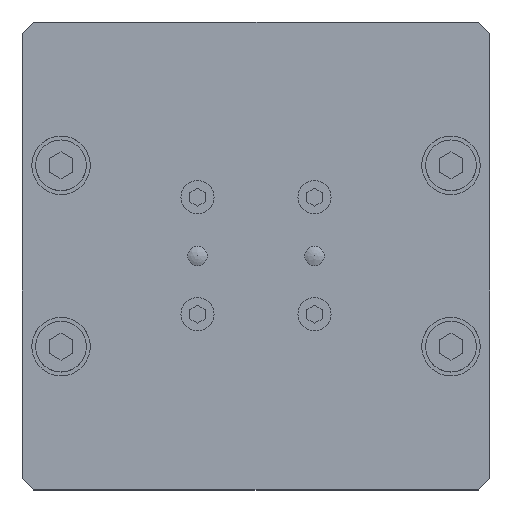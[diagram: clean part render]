
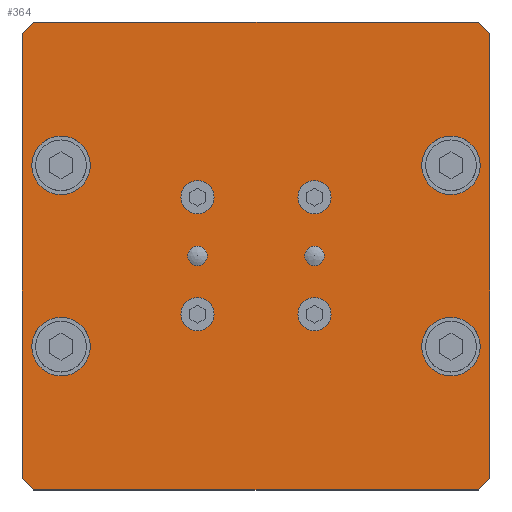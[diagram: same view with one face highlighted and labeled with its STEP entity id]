
A CAD part, top view. The second image highlights one B-rep face of the part: STEP entity #364.
In plain terms, the highlighted planar face has unit normal (0, 0, 1).
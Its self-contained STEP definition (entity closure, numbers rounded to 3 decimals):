
#364 = ADVANCED_FACE( '', ( #828, #829, #830, #831, #832, #833, #834, #835, #836, #837, #838 ), #839, .F. );
#828 = FACE_BOUND( '', #1407, .T. );
#829 = FACE_BOUND( '', #1408, .T. );
#830 = FACE_BOUND( '', #1409, .T. );
#831 = FACE_BOUND( '', #1410, .T. );
#832 = FACE_BOUND( '', #1411, .T. );
#833 = FACE_BOUND( '', #1412, .T. );
#834 = FACE_BOUND( '', #1413, .T. );
#835 = FACE_BOUND( '', #1414, .T. );
#836 = FACE_BOUND( '', #1415, .T. );
#837 = FACE_BOUND( '', #1416, .T. );
#838 = FACE_OUTER_BOUND( '', #1417, .T. );
#839 = PLANE( '', #1418 );
#1407 = EDGE_LOOP( '', ( #2308 ) );
#1408 = EDGE_LOOP( '', ( #2309 ) );
#1409 = EDGE_LOOP( '', ( #2310 ) );
#1410 = EDGE_LOOP( '', ( #2311 ) );
#1411 = EDGE_LOOP( '', ( #2312 ) );
#1412 = EDGE_LOOP( '', ( #2313 ) );
#1413 = EDGE_LOOP( '', ( #2314 ) );
#1414 = EDGE_LOOP( '', ( #2315 ) );
#1415 = EDGE_LOOP( '', ( #2316 ) );
#1416 = EDGE_LOOP( '', ( #2317 ) );
#1417 = EDGE_LOOP( '', ( #2318, #2319, #2320, #2321, #2322, #2323, #2324, #2325 ) );
#1418 = AXIS2_PLACEMENT_3D( '', #2326, #2327, #2328 );
#2308 = ORIENTED_EDGE( '', *, *, #2789, .F. );
#2309 = ORIENTED_EDGE( '', *, *, #2793, .T. );
#2310 = ORIENTED_EDGE( '', *, *, #2980, .F. );
#2311 = ORIENTED_EDGE( '', *, *, #2838, .F. );
#2312 = ORIENTED_EDGE( '', *, *, #3029, .F. );
#2313 = ORIENTED_EDGE( '', *, *, #3030, .F. );
#2314 = ORIENTED_EDGE( '', *, *, #2985, .T. );
#2315 = ORIENTED_EDGE( '', *, *, #2834, .F. );
#2316 = ORIENTED_EDGE( '', *, *, #3009, .F. );
#2317 = ORIENTED_EDGE( '', *, *, #3002, .T. );
#2318 = ORIENTED_EDGE( '', *, *, #2965, .F. );
#2319 = ORIENTED_EDGE( '', *, *, #2959, .T. );
#2320 = ORIENTED_EDGE( '', *, *, #3031, .F. );
#2321 = ORIENTED_EDGE( '', *, *, #3020, .T. );
#2322 = ORIENTED_EDGE( '', *, *, #2874, .F. );
#2323 = ORIENTED_EDGE( '', *, *, #2840, .T. );
#2324 = ORIENTED_EDGE( '', *, *, #3032, .F. );
#2325 = ORIENTED_EDGE( '', *, *, #3033, .T. );
#2326 = CARTESIAN_POINT( '', ( -60., 60., 12. ) );
#2327 = DIRECTION( '', ( 0., 0., -1. ) );
#2328 = DIRECTION( '', ( 0., 1., 0. ) );
#2789 = EDGE_CURVE( '', #3238, #3238, #3239, .T. );
#2793 = EDGE_CURVE( '', #3245, #3245, #3246, .T. );
#2834 = EDGE_CURVE( '', #3311, #3311, #3312, .T. );
#2838 = EDGE_CURVE( '', #3318, #3318, #3319, .T. );
#2840 = EDGE_CURVE( '', #3321, #3322, #3323, .F. );
#2874 = EDGE_CURVE( '', #3321, #3377, #3378, .T. );
#2959 = EDGE_CURVE( '', #3503, #3504, #3505, .F. );
#2965 = EDGE_CURVE( '', #3503, #3514, #3515, .T. );
#2980 = EDGE_CURVE( '', #3535, #3535, #3536, .T. );
#2985 = EDGE_CURVE( '', #3543, #3543, #3544, .T. );
#3002 = EDGE_CURVE( '', #3568, #3568, #3569, .T. );
#3009 = EDGE_CURVE( '', #3578, #3578, #3579, .T. );
#3020 = EDGE_CURVE( '', #3592, #3377, #3593, .F. );
#3029 = EDGE_CURVE( '', #3605, #3605, #3606, .T. );
#3030 = EDGE_CURVE( '', #3607, #3607, #3608, .T. );
#3031 = EDGE_CURVE( '', #3592, #3504, #3609, .T. );
#3032 = EDGE_CURVE( '', #3610, #3322, #3611, .T. );
#3033 = EDGE_CURVE( '', #3610, #3514, #3612, .F. );
#3238 = VERTEX_POINT( '', #3933 );
#3239 = CIRCLE( '', #3934, 2.5 );
#3245 = VERTEX_POINT( '', #3940 );
#3246 = CIRCLE( '', #3941, 2.5 );
#3311 = VERTEX_POINT( '', #4090 );
#3312 = CIRCLE( '', #4091, 7.5 );
#3318 = VERTEX_POINT( '', #4130 );
#3319 = CIRCLE( '', #4131, 2.5 );
#3321 = VERTEX_POINT( '', #4133 );
#3322 = VERTEX_POINT( '', #4134 );
#3323 = LINE( '', #4135, #4136 );
#3377 = VERTEX_POINT( '', #4236 );
#3378 = LINE( '', #4237, #4238 );
#3503 = VERTEX_POINT( '', #4464 );
#3504 = VERTEX_POINT( '', #4465 );
#3505 = LINE( '', #4466, #4467 );
#3514 = VERTEX_POINT( '', #4480 );
#3515 = LINE( '', #4481, #4482 );
#3535 = VERTEX_POINT( '', #4509 );
#3536 = CIRCLE( '', #4510, 2.5 );
#3543 = VERTEX_POINT( '', #4517 );
#3544 = CIRCLE( '', #4518, 7.5 );
#3568 = VERTEX_POINT( '', #4548 );
#3569 = CIRCLE( '', #4549, 7.5 );
#3578 = VERTEX_POINT( '', #4560 );
#3579 = CIRCLE( '', #4561, 7.5 );
#3592 = VERTEX_POINT( '', #4577 );
#3593 = LINE( '', #4578, #4579 );
#3605 = VERTEX_POINT( '', #4593 );
#3606 = CIRCLE( '', #4594, 2.5 );
#3607 = VERTEX_POINT( '', #4595 );
#3608 = CIRCLE( '', #4596, 2.5 );
#3609 = LINE( '', #4597, #4598 );
#3610 = VERTEX_POINT( '', #4599 );
#3611 = LINE( '', #4600, #4601 );
#3612 = LINE( '', #4602, #4603 );
#3933 = CARTESIAN_POINT( '', ( -15., 2.5, 12. ) );
#3934 = AXIS2_PLACEMENT_3D( '', #4810, #4811, #4812 );
#3940 = CARTESIAN_POINT( '', ( 15., 2.5, 12. ) );
#3941 = AXIS2_PLACEMENT_3D( '', #4819, #4820, #4821 );
#4090 = CARTESIAN_POINT( '', ( 50., -30.75, 12. ) );
#4091 = AXIS2_PLACEMENT_3D( '', #4864, #4865, #4866 );
#4130 = CARTESIAN_POINT( '', ( 15., -17.5, 12. ) );
#4131 = AXIS2_PLACEMENT_3D( '', #4870, #4871, #4872 );
#4133 = CARTESIAN_POINT( '', ( 57., -60., 12. ) );
#4134 = CARTESIAN_POINT( '', ( 60., -57., 12. ) );
#4135 = CARTESIAN_POINT( '', ( 60., -57., 12. ) );
#4136 = VECTOR( '', #4873, 1000. );
#4236 = CARTESIAN_POINT( '', ( -57., -60., 12. ) );
#4237 = CARTESIAN_POINT( '', ( 60., -60., 12. ) );
#4238 = VECTOR( '', #4914, 1000. );
#4464 = CARTESIAN_POINT( '', ( -57., 60., 12. ) );
#4465 = CARTESIAN_POINT( '', ( -60., 57., 12. ) );
#4466 = CARTESIAN_POINT( '', ( -60., 57., 12. ) );
#4467 = VECTOR( '', #5004, 1000. );
#4480 = CARTESIAN_POINT( '', ( 57., 60., 12. ) );
#4481 = CARTESIAN_POINT( '', ( -60., 60., 12. ) );
#4482 = VECTOR( '', #5009, 1000. );
#4509 = CARTESIAN_POINT( '', ( -12.5, -15., 12. ) );
#4510 = AXIS2_PLACEMENT_3D( '', #5020, #5021, #5022 );
#4517 = CARTESIAN_POINT( '', ( -50., -30.75, 12. ) );
#4518 = AXIS2_PLACEMENT_3D( '', #5029, #5030, #5031 );
#4548 = CARTESIAN_POINT( '', ( 50., 30.75, 12. ) );
#4549 = AXIS2_PLACEMENT_3D( '', #5047, #5048, #5049 );
#4560 = CARTESIAN_POINT( '', ( -50., 30.75, 12. ) );
#4561 = AXIS2_PLACEMENT_3D( '', #5055, #5056, #5057 );
#4577 = CARTESIAN_POINT( '', ( -60., -57., 12. ) );
#4578 = CARTESIAN_POINT( '', ( -57., -60., 12. ) );
#4579 = VECTOR( '', #5064, 1000. );
#4593 = CARTESIAN_POINT( '', ( -15., 17.5, 12. ) );
#4594 = AXIS2_PLACEMENT_3D( '', #5073, #5074, #5075 );
#4595 = CARTESIAN_POINT( '', ( 17.5, 15., 12. ) );
#4596 = AXIS2_PLACEMENT_3D( '', #5076, #5077, #5078 );
#4597 = CARTESIAN_POINT( '', ( -60., -60., 12. ) );
#4598 = VECTOR( '', #5079, 1000. );
#4599 = CARTESIAN_POINT( '', ( 60., 57., 12. ) );
#4600 = CARTESIAN_POINT( '', ( 60., 60., 12. ) );
#4601 = VECTOR( '', #5080, 1000. );
#4602 = CARTESIAN_POINT( '', ( 57., 60., 12. ) );
#4603 = VECTOR( '', #5081, 1000. );
#4810 = CARTESIAN_POINT( '', ( -15., 0., 12. ) );
#4811 = DIRECTION( '', ( 0., 0., 1. ) );
#4812 = DIRECTION( '', ( 0., 1., 0. ) );
#4819 = CARTESIAN_POINT( '', ( 15., 0., 12. ) );
#4820 = DIRECTION( '', ( 0., 0., -1. ) );
#4821 = DIRECTION( '', ( 0., 1., 0. ) );
#4864 = CARTESIAN_POINT( '', ( 50., -23.25, 12. ) );
#4865 = DIRECTION( '', ( 0., 0., 1. ) );
#4866 = DIRECTION( '', ( 0., -1., 0. ) );
#4870 = CARTESIAN_POINT( '', ( 15., -15., 12. ) );
#4871 = DIRECTION( '', ( 0., 0., 1. ) );
#4872 = DIRECTION( '', ( 0., -1., 0. ) );
#4873 = DIRECTION( '', ( -0.707, -0.707, 0. ) );
#4914 = DIRECTION( '', ( -1., 0., 0. ) );
#5004 = DIRECTION( '', ( 0.707, 0.707, 0. ) );
#5009 = DIRECTION( '', ( 1., 0., 0. ) );
#5020 = CARTESIAN_POINT( '', ( -15., -15., 12. ) );
#5021 = DIRECTION( '', ( 0., 0., 1. ) );
#5022 = DIRECTION( '', ( 1., 0., 0. ) );
#5029 = CARTESIAN_POINT( '', ( -50., -23.25, 12. ) );
#5030 = DIRECTION( '', ( 0., 0., -1. ) );
#5031 = DIRECTION( '', ( 0., -1., 0. ) );
#5047 = CARTESIAN_POINT( '', ( 50., 23.25, 12. ) );
#5048 = DIRECTION( '', ( 0., 0., -1. ) );
#5049 = DIRECTION( '', ( 0., 1., 0. ) );
#5055 = CARTESIAN_POINT( '', ( -50., 23.25, 12. ) );
#5056 = DIRECTION( '', ( 0., 0., 1. ) );
#5057 = DIRECTION( '', ( 0., 1., 0. ) );
#5064 = DIRECTION( '', ( -0.707, 0.707, 0. ) );
#5073 = CARTESIAN_POINT( '', ( -15., 15., 12. ) );
#5074 = DIRECTION( '', ( 0., 0., 1. ) );
#5075 = DIRECTION( '', ( 0., 1., 0. ) );
#5076 = CARTESIAN_POINT( '', ( 15., 15., 12. ) );
#5077 = DIRECTION( '', ( 0., 0., 1. ) );
#5078 = DIRECTION( '', ( 1., 0., 0. ) );
#5079 = DIRECTION( '', ( 0., 1., 0. ) );
#5080 = DIRECTION( '', ( 0., -1., 0. ) );
#5081 = DIRECTION( '', ( 0.707, -0.707, 0. ) );
